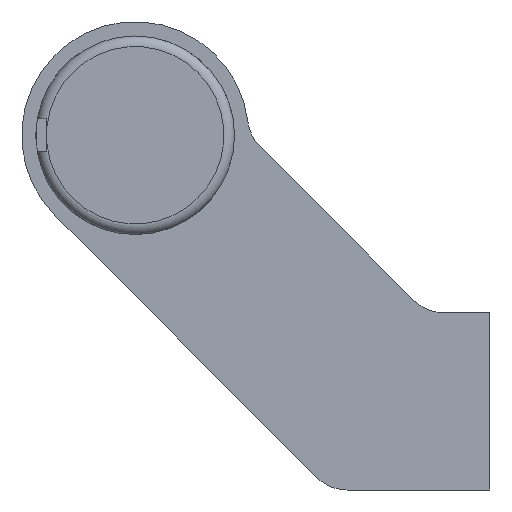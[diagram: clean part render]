
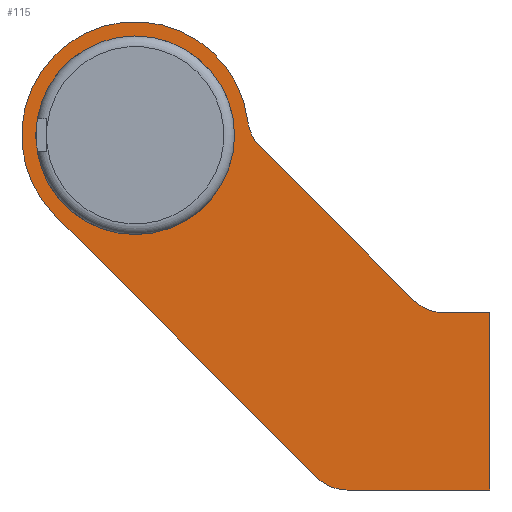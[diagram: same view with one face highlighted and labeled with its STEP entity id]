
A CAD part, left-side view. The second image highlights one B-rep face of the part: STEP entity #115.
In plain terms, the highlighted planar face has unit normal (-1, 0, 0).
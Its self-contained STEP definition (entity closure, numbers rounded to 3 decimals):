
#115 = ADVANCED_FACE( '', ( #215, #216 ), #217, .F. );
#215 = FACE_BOUND( '', #328, .T. );
#216 = FACE_OUTER_BOUND( '', #329, .T. );
#217 = PLANE( '', #330 );
#328 = EDGE_LOOP( '', ( #629 ) );
#329 = EDGE_LOOP( '', ( #630, #631, #632, #633, #634, #635, #636, #637, #638 ) );
#330 = AXIS2_PLACEMENT_3D( '', #639, #640, #641 );
#629 = ORIENTED_EDGE( '', *, *, #755, .T. );
#630 = ORIENTED_EDGE( '', *, *, #741, .F. );
#631 = ORIENTED_EDGE( '', *, *, #719, .F. );
#632 = ORIENTED_EDGE( '', *, *, #715, .F. );
#633 = ORIENTED_EDGE( '', *, *, #723, .F. );
#634 = ORIENTED_EDGE( '', *, *, #726, .F. );
#635 = ORIENTED_EDGE( '', *, *, #729, .T. );
#636 = ORIENTED_EDGE( '', *, *, #732, .F. );
#637 = ORIENTED_EDGE( '', *, *, #735, .T. );
#638 = ORIENTED_EDGE( '', *, *, #738, .F. );
#639 = CARTESIAN_POINT( '', ( -107., 50., 37.5 ) );
#640 = DIRECTION( '', ( 1., 0., 0. ) );
#641 = DIRECTION( '', ( 0., 0., -1. ) );
#715 = EDGE_CURVE( '', #840, #841, #842, .T. );
#719 = EDGE_CURVE( '', #841, #848, #849, .T. );
#723 = EDGE_CURVE( '', #855, #840, #856, .T. );
#726 = EDGE_CURVE( '', #860, #855, #861, .T. );
#729 = EDGE_CURVE( '', #860, #865, #866, .T. );
#732 = EDGE_CURVE( '', #870, #865, #871, .T. );
#735 = EDGE_CURVE( '', #870, #875, #876, .T. );
#738 = EDGE_CURVE( '', #880, #875, #881, .T. );
#741 = EDGE_CURVE( '', #848, #880, #885, .T. );
#755 = EDGE_CURVE( '', #907, #907, #908, .T. );
#840 = VERTEX_POINT( '', #1083 );
#841 = VERTEX_POINT( '', #1084 );
#842 = LINE( '', #1085, #1086 );
#848 = VERTEX_POINT( '', #1095 );
#849 = CIRCLE( '', #1096, 6. );
#855 = VERTEX_POINT( '', #1103 );
#856 = LINE( '', #1104, #1105 );
#860 = VERTEX_POINT( '', #1111 );
#861 = LINE( '', #1112, #1113 );
#865 = VERTEX_POINT( '', #1119 );
#866 = CIRCLE( '', #1120, 6. );
#870 = VERTEX_POINT( '', #1125 );
#871 = LINE( '', #1126, #1127 );
#875 = VERTEX_POINT( '', #1133 );
#876 = CIRCLE( '', #1134, 6. );
#880 = VERTEX_POINT( '', #1139 );
#881 = CIRCLE( '', #1140, 16. );
#885 = LINE( '', #1145, #1146 );
#907 = VERTEX_POINT( '', #1174 );
#908 = CIRCLE( '', #1175, 14. );
#1083 = CARTESIAN_POINT( '', ( -107., 0., -12.5 ) );
#1084 = CARTESIAN_POINT( '', ( -107., 20.142, -12.5 ) );
#1085 = CARTESIAN_POINT( '', ( -107., 0., -12.5 ) );
#1086 = VECTOR( '', #1265, 1000. );
#1095 = CARTESIAN_POINT( '', ( -107., 24.385, -10.743 ) );
#1096 = AXIS2_PLACEMENT_3D( '', #1269, #1270, #1271 );
#1103 = CARTESIAN_POINT( '', ( -107., 0., 12.5 ) );
#1104 = CARTESIAN_POINT( '', ( -107., 0., 12.5 ) );
#1105 = VECTOR( '', #1279, 1000. );
#1111 = CARTESIAN_POINT( '', ( -107., 6.515, 12.5 ) );
#1112 = CARTESIAN_POINT( '', ( -107., 6.515, 12.5 ) );
#1113 = VECTOR( '', #1282, 1000. );
#1119 = CARTESIAN_POINT( '', ( -107., 10.757, 14.257 ) );
#1120 = AXIS2_PLACEMENT_3D( '', #1285, #1286, #1287 );
#1125 = CARTESIAN_POINT( '', ( -107., 32.402, 35.902 ) );
#1126 = CARTESIAN_POINT( '', ( -107., 32.402, 35.902 ) );
#1127 = VECTOR( '', #1292, 1000. );
#1133 = CARTESIAN_POINT( '', ( -107., 34.116, 39.424 ) );
#1134 = AXIS2_PLACEMENT_3D( '', #1295, #1296, #1297 );
#1139 = CARTESIAN_POINT( '', ( -107., 61.314, 26.186 ) );
#1140 = AXIS2_PLACEMENT_3D( '', #1302, #1303, #1304 );
#1145 = CARTESIAN_POINT( '', ( -107., 24.385, -10.743 ) );
#1146 = VECTOR( '', #1309, 1000. );
#1174 = CARTESIAN_POINT( '', ( -107., 50., 23.5 ) );
#1175 = AXIS2_PLACEMENT_3D( '', #1337, #1338, #1339 );
#1265 = DIRECTION( '', ( 0., 1., 0. ) );
#1269 = CARTESIAN_POINT( '', ( -107., 20.142, -6.5 ) );
#1270 = DIRECTION( '', ( 1., 0., 0. ) );
#1271 = DIRECTION( '', ( 0., 0., -1. ) );
#1279 = DIRECTION( '', ( 0., 0., -1. ) );
#1282 = DIRECTION( '', ( 0., -1., 0. ) );
#1285 = CARTESIAN_POINT( '', ( -107., 6.515, 18.5 ) );
#1286 = DIRECTION( '', ( 1., 0., 0. ) );
#1287 = DIRECTION( '', ( 0., 0., -1. ) );
#1292 = DIRECTION( '', ( 0., -0.707, -0.707 ) );
#1295 = CARTESIAN_POINT( '', ( -107., 28.16, 40.145 ) );
#1296 = DIRECTION( '', ( 1., 0., 0. ) );
#1297 = DIRECTION( '', ( 0., 0., -1. ) );
#1302 = CARTESIAN_POINT( '', ( -107., 50., 37.5 ) );
#1303 = DIRECTION( '', ( 1., 0., 0. ) );
#1304 = DIRECTION( '', ( 0., 0., -1. ) );
#1309 = DIRECTION( '', ( 0., 0.707, 0.707 ) );
#1337 = CARTESIAN_POINT( '', ( -107., 50., 37.5 ) );
#1338 = DIRECTION( '', ( 1., 0., 0. ) );
#1339 = DIRECTION( '', ( 0., 0., -1. ) );
